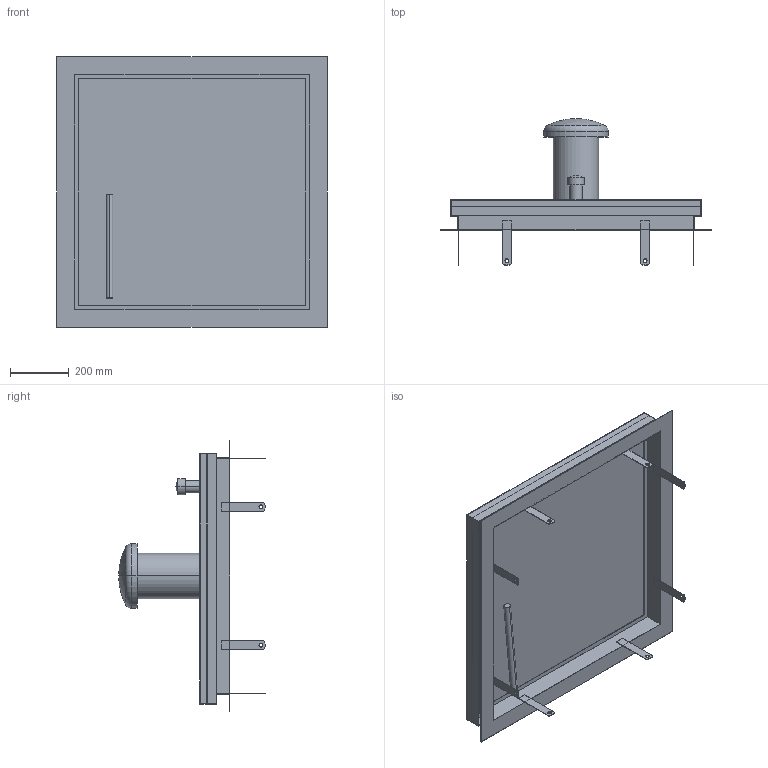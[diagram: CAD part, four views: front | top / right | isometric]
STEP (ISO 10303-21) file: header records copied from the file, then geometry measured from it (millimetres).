
FILE_DESCRIPTION((''),'2;1');
FILE_NAME('017_000105','2017-05-22T',('slc'),('HUBER SE'),'PRO/ENGINEER BY PARAMETRIC TECHNOLOGY CORPORATION, 2015280','PRO/ENGINEER BY PARAMETRIC TECHNOLOGY CORPORATION, 2015280','');
FILE_SCHEMA(('CONFIG_CONTROL_DESIGN'));
Length unit declared in the file: millimetre
Products named in the file (1): 017_000105
Bounding box: 920 x 498 x 920 mm (x, y, z)
Volume: 9738731.9 mm3; surface area: 4436550 mm2
Topology: 3 solids, 4 shells, 121 faces, 431 edges, 345 vertices
Faces by surface type: plane 81, cylinder 34, sphere 2, torus 2, bspline 2
Entity records: 4441 total; most frequent: CARTESIAN_POINT 936, DIRECTION 696, ORIENTED_EDGE 596, VECTOR 304, LINE 304, EDGE_CURVE 298, AXIS2_PLACEMENT_3D 196, VERTEX_POINT 192
